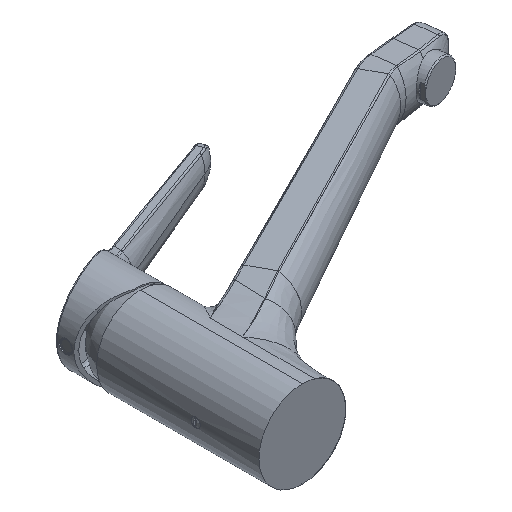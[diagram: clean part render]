
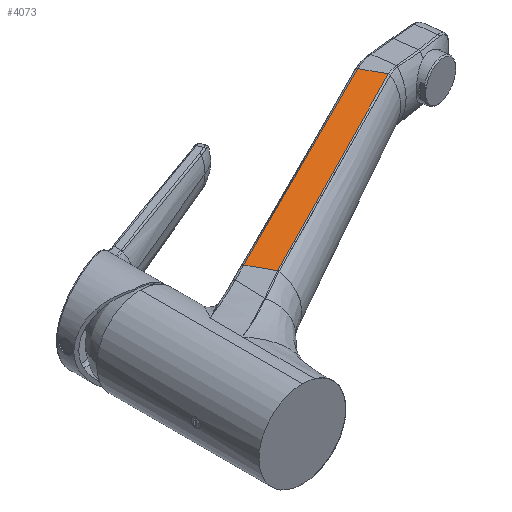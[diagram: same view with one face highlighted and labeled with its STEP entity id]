
A CAD part, isometric view. The second image highlights one B-rep face of the part: STEP entity #4073.
In plain terms, the highlighted cylindrical face has radius 37287.9 mm (diameter 74575.9 mm), a partial arc.
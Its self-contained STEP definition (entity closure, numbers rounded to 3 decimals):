
#916=CARTESIAN_POINT('',(198.789,122.879,15.522));
#917=CARTESIAN_POINT('',(198.787,122.878,15.522));
#918=CARTESIAN_POINT('',(183.616,114.855,15.912));
#919=CARTESIAN_POINT('',(153.899,99.19,16.698));
#920=CARTESIAN_POINT('',(108.67,75.499,17.96));
#921=CARTESIAN_POINT('',(77.052,59.047,18.889));
#922=CARTESIAN_POINT('',(59.996,50.207,19.403));
#923=CARTESIAN_POINT('',(58.448,49.405,19.45));
#925=CARTESIAN_POINT('',(58.448,49.405,19.45));
#926=CARTESIAN_POINT('',(57.651,50.873,19.45));
#927=CARTESIAN_POINT('',(56.057,53.81,19.45));
#928=CARTESIAN_POINT('',(53.666,58.214,19.45));
#929=CARTESIAN_POINT('',(52.071,61.15,19.45));
#930=CARTESIAN_POINT('',(51.274,62.618,19.45));
#932=CARTESIAN_POINT('',(51.274,62.618,19.45));
#933=CARTESIAN_POINT('',(59.282,66.631,19.208));
#934=CARTESIAN_POINT('',(75.273,74.674,18.732));
#935=CARTESIAN_POINT('',(99.235,86.818,18.039));
#936=CARTESIAN_POINT('',(123.027,98.965,17.368));
#937=CARTESIAN_POINT('',(146.549,111.065,16.722));
#938=CARTESIAN_POINT('',(169.708,123.063,16.104));
#939=CARTESIAN_POINT('',(184.806,130.941,15.713));
#940=CARTESIAN_POINT('',(192.279,134.854,15.522));
#1139=CARTESIAN_POINT('',(198.788,122.879,15.522));
#1171=CARTESIAN_POINT('',(198.788,122.879,15.522));
#1172=CARTESIAN_POINT('',(198.038,124.262,15.522));
#1173=CARTESIAN_POINT('',(196.552,126.991,15.523));
#1174=CARTESIAN_POINT('',(194.387,130.98,15.521));
#1175=CARTESIAN_POINT('',(192.975,133.573,15.522));
#1176=CARTESIAN_POINT('',(192.279,134.854,15.522));
#2428=VERTEX_POINT('',#1139);
#2445=VERTEX_POINT('',#1176);
#2446=VERTEX_POINT('',#923);
#2447=VERTEX_POINT('',#930);
#4060=CARTESIAN_POINT('',(938.55,532.119,37293.87));
#4061=DIRECTION('',(-0.477,0.879,0.));
#4062=DIRECTION('',(-0.02,-0.011,-1.));
#4063=AXIS2_PLACEMENT_3D('',#4060,#4061,#4062);
#4064=CYLINDRICAL_SURFACE('',#4063,37287.932);
#4065=ORIENTED_EDGE('',*,*,#4051,.T.);
#4066=ORIENTED_EDGE('',*,*,#3773,.T.);
#4068=ORIENTED_EDGE('',*,*,#4067,.T.);
#4070=ORIENTED_EDGE('',*,*,#4069,.F.);
#4071=EDGE_LOOP('',(#4065,#4066,#4068,#4070));
#4072=FACE_OUTER_BOUND('',#4071,.F.);
#4073=ADVANCED_FACE('',(#4072),#4064,.F.);
#924=B_SPLINE_CURVE_WITH_KNOTS('',3,(#916,#917,#918,#919,#920,#921,#922,#923),
.UNSPECIFIED.,.F.,.F.,(4,1,1,1,1,4),(0.,0.,0.325,
0.636,0.967,1.),.UNSPECIFIED.);
#931=B_SPLINE_CURVE_WITH_KNOTS('',3,(#925,#926,#927,#928,#929,#930),
.UNSPECIFIED.,.F.,.F.,(4,1,1,4),(0.,0.333,0.667,1.),
.UNSPECIFIED.);
#941=B_SPLINE_CURVE_WITH_KNOTS('',3,(#932,#933,#934,#935,#936,#937,#938,#939,
#940),.UNSPECIFIED.,.F.,.F.,(4,1,1,1,1,1,4),(0.,0.167,
0.333,0.5,0.667,0.833,1.),
.UNSPECIFIED.);
#1177=B_SPLINE_CURVE_WITH_KNOTS('',3,(#1171,#1172,#1173,#1174,#1175,#1176),
.UNSPECIFIED.,.F.,.F.,(4,1,1,4),(0.,0.333,0.667,1.),
.UNSPECIFIED.);
#3773=EDGE_CURVE('',#2446,#2447,#931,.T.);
#4051=EDGE_CURVE('',#2428,#2446,#924,.T.);
#4067=EDGE_CURVE('',#2447,#2445,#941,.T.);
#4069=EDGE_CURVE('',#2428,#2445,#1177,.T.);
